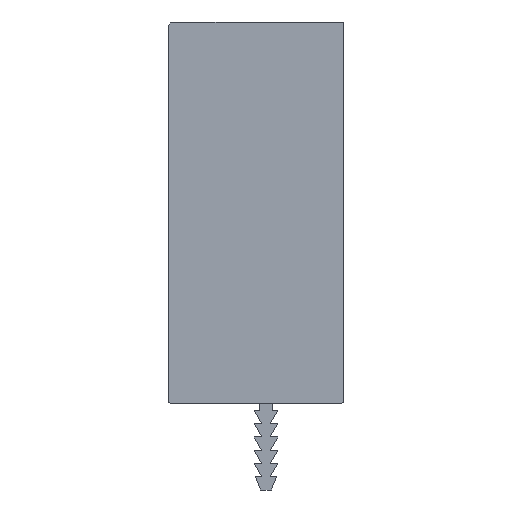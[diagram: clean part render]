
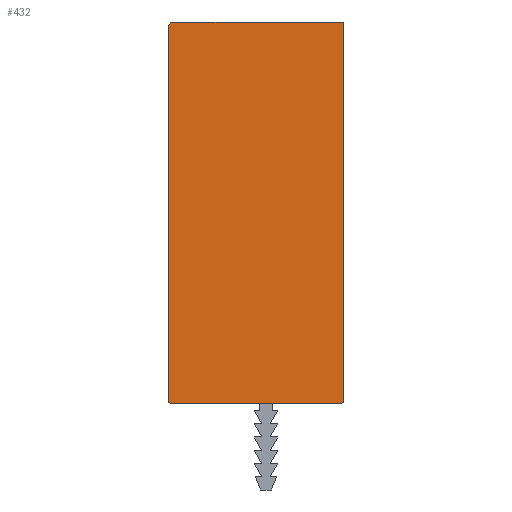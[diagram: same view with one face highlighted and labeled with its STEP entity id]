
A CAD part, left-side view. The second image highlights one B-rep face of the part: STEP entity #432.
In plain terms, the highlighted planar face has unit normal (-1, 0, 0).
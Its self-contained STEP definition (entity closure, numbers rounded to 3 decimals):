
#408 = EDGE_CURVE( '', #822, #570, #1184, .T. );
#432 = ADVANCED_FACE( '', ( #1210 ), #1211, .F. );
#518 = VERTEX_POINT( '', #1306 );
#520 = VERTEX_POINT( '', #1308 );
#548 = EDGE_CURVE( '', #816, #1060, #1341, .T. );
#570 = VERTEX_POINT( '', #1365 );
#614 = EDGE_CURVE( '', #670, #520, #1410, .T. );
#626 = EDGE_CURVE( '', #520, #518, #1423, .T. );
#670 = VERTEX_POINT( '', #1473 );
#724 = EDGE_CURVE( '', #518, #816, #1532, .T. );
#756 = EDGE_CURVE( '', #962, #822, #1567, .T. );
#816 = VERTEX_POINT( '', #1632 );
#822 = VERTEX_POINT( '', #1639 );
#924 = EDGE_CURVE( '', #570, #670, #1752, .T. );
#962 = VERTEX_POINT( '', #1793 );
#1060 = VERTEX_POINT( '', #1897 );
#1072 = EDGE_CURVE( '', #1060, #962, #1911, .T. );
#1184 = LINE( '', #2020, #2021 );
#1210 = FACE_OUTER_BOUND( '', #2056, .T. );
#1211 = PLANE( '', #2057 );
#1306 = CARTESIAN_POINT( '', ( 0., 11.75, -1.3 ) );
#1308 = CARTESIAN_POINT( '', ( 0., 11.55, -1.5 ) );
#1341 = CIRCLE( '', #2235, 0.5 );
#1365 = CARTESIAN_POINT( '', ( 0., -9.35, -1.3 ) );
#1410 = LINE( '', #2347, #2348 );
#1423 = CIRCLE( '', #2366, 0.2 );
#1473 = CARTESIAN_POINT( '', ( 0., -9.15, -1.5 ) );
#1532 = LINE( '', #2507, #2508 );
#1567 = CIRCLE( '', #2559, 0.2 );
#1632 = CARTESIAN_POINT( '', ( 0., 11.75, 44. ) );
#1639 = CARTESIAN_POINT( '', ( 0., -9.35, 44.3 ) );
#1752 = CIRCLE( '', #2807, 0.2 );
#1793 = CARTESIAN_POINT( '', ( 0., -9.15, 44.5 ) );
#1897 = CARTESIAN_POINT( '', ( 0., 11.25, 44.5 ) );
#1911 = LINE( '', #3049, #3050 );
#2020 = CARTESIAN_POINT( '', ( 0., -9.35, 44.3 ) );
#2021 = VECTOR( '', #3186, 1. );
#2056 = EDGE_LOOP( '', ( #3216, #3217, #3218, #3219, #3220, #3221, #3222, #3223 ) );
#2057 = AXIS2_PLACEMENT_3D( '', #3224, #3225, #3226 );
#2235 = AXIS2_PLACEMENT_3D( '', #3372, #3373, #3374 );
#2347 = CARTESIAN_POINT( '', ( 0., -9.15, -1.5 ) );
#2348 = VECTOR( '', #3425, 1. );
#2366 = AXIS2_PLACEMENT_3D( '', #3436, #3437, #3438 );
#2507 = CARTESIAN_POINT( '', ( 0., 11.75, -1.3 ) );
#2508 = VECTOR( '', #3554, 1. );
#2559 = AXIS2_PLACEMENT_3D( '', #3592, #3593, #3594 );
#2807 = AXIS2_PLACEMENT_3D( '', #3812, #3813, #3814 );
#3049 = CARTESIAN_POINT( '', ( 0., 11.25, 44.5 ) );
#3050 = VECTOR( '', #3982, 1. );
#3186 = DIRECTION( '', ( 0., 0., -1. ) );
#3216 = ORIENTED_EDGE( '', *, *, #1072, .F. );
#3217 = ORIENTED_EDGE( '', *, *, #548, .F. );
#3218 = ORIENTED_EDGE( '', *, *, #724, .F. );
#3219 = ORIENTED_EDGE( '', *, *, #626, .F. );
#3220 = ORIENTED_EDGE( '', *, *, #614, .F. );
#3221 = ORIENTED_EDGE( '', *, *, #924, .F. );
#3222 = ORIENTED_EDGE( '', *, *, #408, .F. );
#3223 = ORIENTED_EDGE( '', *, *, #756, .F. );
#3224 = CARTESIAN_POINT( '', ( 0., 0., 0. ) );
#3225 = DIRECTION( '', ( 1., 0., 0. ) );
#3226 = DIRECTION( '', ( 0., 0., -1. ) );
#3372 = CARTESIAN_POINT( '', ( 0., 11.25, 44. ) );
#3373 = DIRECTION( '', ( 1., 0., 0. ) );
#3374 = DIRECTION( '', ( 0., 1., 0. ) );
#3425 = DIRECTION( '', ( 0., 1., 0. ) );
#3436 = CARTESIAN_POINT( '', ( 0., 11.55, -1.3 ) );
#3437 = DIRECTION( '', ( 1., 0., 0. ) );
#3438 = DIRECTION( '', ( 0., 0., -1. ) );
#3554 = DIRECTION( '', ( 0., 0., 1. ) );
#3592 = CARTESIAN_POINT( '', ( 0., -9.15, 44.3 ) );
#3593 = DIRECTION( '', ( 1., 0., 0. ) );
#3594 = DIRECTION( '', ( 0., 0., 1. ) );
#3812 = CARTESIAN_POINT( '', ( 0., -9.15, -1.3 ) );
#3813 = DIRECTION( '', ( 1., 0., 0. ) );
#3814 = DIRECTION( '', ( 0., -1., 0. ) );
#3982 = DIRECTION( '', ( 0., -1., 0. ) );
